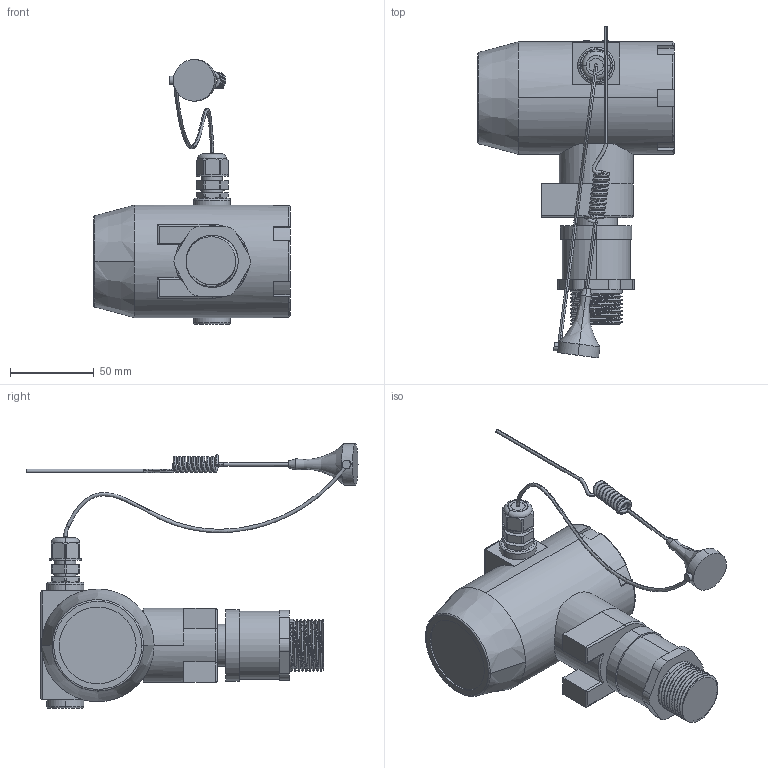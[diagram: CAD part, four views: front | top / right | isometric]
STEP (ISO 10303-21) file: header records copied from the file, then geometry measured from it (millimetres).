
FILE_DESCRIPTION((''),'2;1');
FILE_NAME('ASM0003_ASM','2025-12-29T14:36:40',('28740194'),(''),'CREO PARAMETRIC BY PTC INC, 2024063','CREO PARAMETRIC BY PTC INC, 2024063','');
FILE_SCHEMA(('CONFIG_CONTROL_DESIGN'));
Length unit declared in the file: millimetre
Products named in the file (11): 0001; EV214_27005336_DUMMY_MIR; EV214_27005336_02_MIR; EV214_27005336_03_MIR; EV214_27005336_04_MIR; EV214_27005336_06_MIR; EV214_27005336_07_MIR; ASM0003__ASM; 00; 55000; ASM0003_ASM
Assembly tree (10 placements, depth 3):
  ASM0003_ASM
    0001
    ASM0003__ASM
      EV214_27005336_DUMMY_MIR
      EV214_27005336_02_MIR
      EV214_27005336_03_MIR
      EV214_27005336_04_MIR
      EV214_27005336_06_MIR
      EV214_27005336_07_MIR
    00
    55000
Bounding box: 117 x 197.69 x 157.62 mm (x, y, z)
Volume: 561601.4 mm3; surface area: 66923.6 mm2
Topology: 8 solids, 13 shells, 1076 faces, 3014 edges, 1995 vertices
Faces by surface type: plane 877, cylinder 130, bspline 33, torus 20, cone 12, sphere 4
Entity records: 41996 total; most frequent: CARTESIAN_POINT 14040, ORIENTED_EDGE 6000, DIRECTION 5388, EDGE_CURVE 3008, VECTOR 2440, LINE 2440, VERTEX_POINT 1995, AXIS2_PLACEMENT_3D 1474
